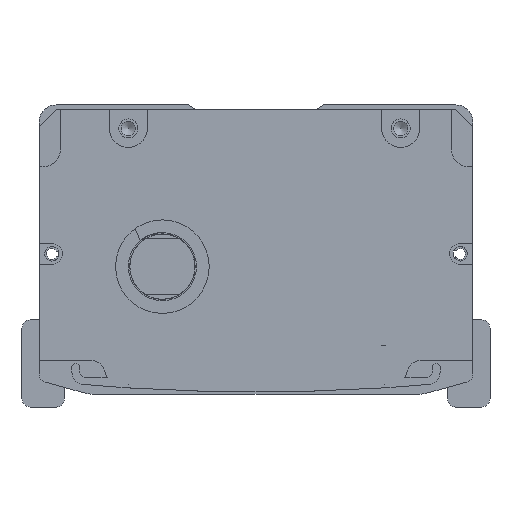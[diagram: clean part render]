
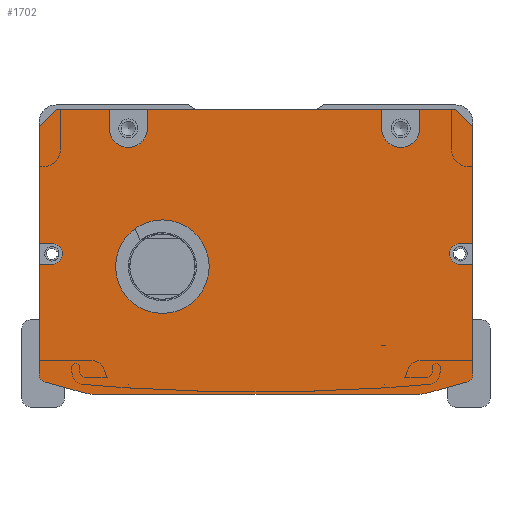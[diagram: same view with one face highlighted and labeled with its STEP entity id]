
A CAD part, front view. The second image highlights one B-rep face of the part: STEP entity #1702.
In plain terms, the highlighted planar face has unit normal (0, -1, 0).
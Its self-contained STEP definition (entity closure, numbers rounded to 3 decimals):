
#1014=FACE_BOUND('',#3192,.T.);
#1015=FACE_BOUND('',#3193,.T.);
#1702=ADVANCED_FACE('',(#1014,#1015),#2327,.F.);
#2327=PLANE('',#12171);
#3192=EDGE_LOOP('',(#5623,#5624,#5625,#5626,#5627,#5628,#5629,#5630,#5631,
#5632,#5633,#5634,#5635,#5636,#5637,#5638,#5639,#5640,#5641,#5642,#5643,
#5644,#5645,#5646,#5647,#5648,#5649,#5650));
#3193=EDGE_LOOP('',(#5651));
#4199=CIRCLE('',#12162,4.5);
#4200=CIRCLE('',#12163,4.5);
#4201=CIRCLE('',#12164,2.5);
#4202=CIRCLE('',#12165,2.);
#4203=CIRCLE('',#12166,10.);
#4204=CIRCLE('',#12167,10.);
#4205=CIRCLE('',#12168,2.);
#4206=CIRCLE('',#12169,2.5);
#4207=CIRCLE('',#12170,11.);
#5623=ORIENTED_EDGE('',*,*,#9032,.T.);
#5624=ORIENTED_EDGE('',*,*,#9452,.T.);
#5625=ORIENTED_EDGE('',*,*,#9453,.T.);
#5626=ORIENTED_EDGE('',*,*,#9454,.F.);
#5627=ORIENTED_EDGE('',*,*,#9455,.T.);
#5628=ORIENTED_EDGE('',*,*,#9456,.F.);
#5629=ORIENTED_EDGE('',*,*,#9457,.T.);
#5630=ORIENTED_EDGE('',*,*,#9458,.F.);
#5631=ORIENTED_EDGE('',*,*,#9459,.T.);
#5632=ORIENTED_EDGE('',*,*,#9460,.F.);
#5633=ORIENTED_EDGE('',*,*,#9461,.T.);
#5634=ORIENTED_EDGE('',*,*,#9462,.T.);
#5635=ORIENTED_EDGE('',*,*,#9064,.T.);
#5636=ORIENTED_EDGE('',*,*,#9463,.T.);
#5637=ORIENTED_EDGE('',*,*,#9464,.T.);
#5638=ORIENTED_EDGE('',*,*,#9465,.T.);
#5639=ORIENTED_EDGE('',*,*,#9060,.T.);
#5640=ORIENTED_EDGE('',*,*,#9466,.T.);
#5641=ORIENTED_EDGE('',*,*,#9467,.T.);
#5642=ORIENTED_EDGE('',*,*,#9468,.T.);
#5643=ORIENTED_EDGE('',*,*,#9469,.T.);
#5644=ORIENTED_EDGE('',*,*,#9470,.T.);
#5645=ORIENTED_EDGE('',*,*,#9471,.T.);
#5646=ORIENTED_EDGE('',*,*,#9472,.T.);
#5647=ORIENTED_EDGE('',*,*,#9036,.T.);
#5648=ORIENTED_EDGE('',*,*,#9473,.T.);
#5649=ORIENTED_EDGE('',*,*,#9474,.T.);
#5650=ORIENTED_EDGE('',*,*,#9475,.T.);
#5651=ORIENTED_EDGE('',*,*,#9476,.T.);
#7876=VERTEX_POINT('',#16794);
#7877=VERTEX_POINT('',#16796);
#7880=VERTEX_POINT('',#16802);
#7881=VERTEX_POINT('',#16804);
#7902=VERTEX_POINT('',#16849);
#7903=VERTEX_POINT('',#16851);
#7906=VERTEX_POINT('',#16857);
#7907=VERTEX_POINT('',#16859);
#8174=VERTEX_POINT('',#17660);
#8175=VERTEX_POINT('',#17662);
#8176=VERTEX_POINT('',#17664);
#8177=VERTEX_POINT('',#17666);
#8178=VERTEX_POINT('',#17668);
#8179=VERTEX_POINT('',#17670);
#8180=VERTEX_POINT('',#17672);
#8181=VERTEX_POINT('',#17674);
#8182=VERTEX_POINT('',#17676);
#8183=VERTEX_POINT('',#17678);
#8184=VERTEX_POINT('',#17681);
#8185=VERTEX_POINT('',#17683);
#8186=VERTEX_POINT('',#17686);
#8187=VERTEX_POINT('',#17688);
#8188=VERTEX_POINT('',#17690);
#8189=VERTEX_POINT('',#17692);
#8190=VERTEX_POINT('',#17694);
#8191=VERTEX_POINT('',#17696);
#8192=VERTEX_POINT('',#17699);
#8193=VERTEX_POINT('',#17701);
#8194=VERTEX_POINT('',#17704);
#9032=EDGE_CURVE('',#7877,#7876,#10493,.T.);
#9036=EDGE_CURVE('',#7881,#7880,#10497,.T.);
#9060=EDGE_CURVE('',#7903,#7902,#10521,.T.);
#9064=EDGE_CURVE('',#7907,#7906,#10525,.T.);
#9452=EDGE_CURVE('',#7876,#8174,#10758,.T.);
#9453=EDGE_CURVE('',#8174,#8175,#10759,.T.);
#9454=EDGE_CURVE('',#8176,#8175,#10760,.T.);
#9455=EDGE_CURVE('',#8176,#8177,#4199,.T.);
#9456=EDGE_CURVE('',#8178,#8177,#10761,.T.);
#9457=EDGE_CURVE('',#8178,#8179,#10762,.T.);
#9458=EDGE_CURVE('',#8180,#8179,#10763,.T.);
#9459=EDGE_CURVE('',#8180,#8181,#4200,.T.);
#9460=EDGE_CURVE('',#8182,#8181,#10764,.T.);
#9461=EDGE_CURVE('',#8182,#8183,#10765,.T.);
#9462=EDGE_CURVE('',#8183,#7907,#10766,.T.);
#9463=EDGE_CURVE('',#7906,#8184,#10767,.T.);
#9464=EDGE_CURVE('',#8184,#8185,#4201,.T.);
#9465=EDGE_CURVE('',#8185,#7903,#10768,.T.);
#9466=EDGE_CURVE('',#7902,#8186,#4202,.T.);
#9467=EDGE_CURVE('',#8186,#8187,#10769,.T.);
#9468=EDGE_CURVE('',#8187,#8188,#4203,.T.);
#9469=EDGE_CURVE('',#8188,#8189,#10770,.T.);
#9470=EDGE_CURVE('',#8189,#8190,#4204,.T.);
#9471=EDGE_CURVE('',#8190,#8191,#10771,.T.);
#9472=EDGE_CURVE('',#8191,#7881,#4205,.T.);
#9473=EDGE_CURVE('',#7880,#8192,#10772,.T.);
#9474=EDGE_CURVE('',#8192,#8193,#4206,.T.);
#9475=EDGE_CURVE('',#8193,#7877,#10773,.T.);
#9476=EDGE_CURVE('',#8194,#8194,#4207,.T.);
#10493=LINE('',#16795,#11146);
#10497=LINE('',#16803,#11150);
#10521=LINE('',#16850,#11174);
#10525=LINE('',#16858,#11178);
#10758=LINE('',#17659,#11411);
#10759=LINE('',#17661,#11412);
#10760=LINE('',#17663,#11413);
#10761=LINE('',#17667,#11414);
#10762=LINE('',#17669,#11415);
#10763=LINE('',#17671,#11416);
#10764=LINE('',#17675,#11417);
#10765=LINE('',#17677,#11418);
#10766=LINE('',#17679,#11419);
#10767=LINE('',#17680,#11420);
#10768=LINE('',#17684,#11421);
#10769=LINE('',#17687,#11422);
#10770=LINE('',#17691,#11423);
#10771=LINE('',#17695,#11424);
#10772=LINE('',#17698,#11425);
#10773=LINE('',#17702,#11426);
#11146=VECTOR('',#13404,1.);
#11150=VECTOR('',#13408,1.);
#11174=VECTOR('',#13434,1.);
#11178=VECTOR('',#13438,1.);
#11411=VECTOR('',#14273,1.);
#11412=VECTOR('',#14274,1.);
#11413=VECTOR('',#14275,1.);
#11414=VECTOR('',#14278,1.);
#11415=VECTOR('',#14279,1.);
#11416=VECTOR('',#14280,1.);
#11417=VECTOR('',#14283,1.);
#11418=VECTOR('',#14284,1.);
#11419=VECTOR('',#14285,1.);
#11420=VECTOR('',#14286,1.);
#11421=VECTOR('',#14289,1.);
#11422=VECTOR('',#14292,1.);
#11423=VECTOR('',#14295,1.);
#11424=VECTOR('',#14298,1.);
#11425=VECTOR('',#14301,1.);
#11426=VECTOR('',#14304,1.);
#12162=AXIS2_PLACEMENT_3D('',#17665,#14276,#14277);
#12163=AXIS2_PLACEMENT_3D('',#17673,#14281,#14282);
#12164=AXIS2_PLACEMENT_3D('',#17682,#14287,#14288);
#12165=AXIS2_PLACEMENT_3D('',#17685,#14290,#14291);
#12166=AXIS2_PLACEMENT_3D('',#17689,#14293,#14294);
#12167=AXIS2_PLACEMENT_3D('',#17693,#14296,#14297);
#12168=AXIS2_PLACEMENT_3D('',#17697,#14299,#14300);
#12169=AXIS2_PLACEMENT_3D('',#17700,#14302,#14303);
#12170=AXIS2_PLACEMENT_3D('',#17703,#14305,#14306);
#12171=AXIS2_PLACEMENT_3D('',#17705,#14307,#14308);
#13404=DIRECTION('',(0.,0.,1.));
#13408=DIRECTION('',(0.,0.,1.));
#13434=DIRECTION('',(0.,0.,-1.));
#13438=DIRECTION('',(0.,0.,-1.));
#14273=DIRECTION('',(-0.707,0.,0.707));
#14274=DIRECTION('',(-1.,0.,0.));
#14275=DIRECTION('',(0.,0.,1.));
#14276=DIRECTION('',(0.,1.,0.));
#14277=DIRECTION('',(0.,0.,1.));
#14278=DIRECTION('',(0.,0.,-1.));
#14279=DIRECTION('',(-1.,0.,0.));
#14280=DIRECTION('',(0.,0.,1.));
#14281=DIRECTION('',(0.,1.,0.));
#14282=DIRECTION('',(0.,0.,1.));
#14283=DIRECTION('',(0.,0.,-1.));
#14284=DIRECTION('',(-1.,0.,0.));
#14285=DIRECTION('',(-0.707,0.,-0.707));
#14286=DIRECTION('',(1.,0.,0.));
#14287=DIRECTION('',(0.,1.,0.));
#14288=DIRECTION('',(0.,0.,1.));
#14289=DIRECTION('',(-1.,0.,0.));
#14290=DIRECTION('',(0.,-1.,0.));
#14291=DIRECTION('',(0.,0.,1.));
#14292=DIRECTION('',(0.963,0.,-0.269));
#14293=DIRECTION('',(0.,-1.,0.));
#14294=DIRECTION('',(0.,0.,1.));
#14295=DIRECTION('',(1.,0.,0.));
#14296=DIRECTION('',(0.,-1.,0.));
#14297=DIRECTION('',(0.,0.,-1.));
#14298=DIRECTION('',(0.963,0.,0.269));
#14299=DIRECTION('',(0.,-1.,0.));
#14300=DIRECTION('',(0.,0.,-1.));
#14301=DIRECTION('',(-1.,0.,0.));
#14302=DIRECTION('',(0.,1.,0.));
#14303=DIRECTION('',(0.,0.,1.));
#14304=DIRECTION('',(1.,0.,0.));
#14305=DIRECTION('',(0.,1.,0.));
#14306=DIRECTION('',(0.,0.,1.));
#14307=DIRECTION('',(0.,1.,0.));
#14308=DIRECTION('',(1.,0.,0.));
#16794=CARTESIAN_POINT('',(47.808,-857.5,-5.));
#16795=CARTESIAN_POINT('',(47.808,-857.5,-1.));
#16796=CARTESIAN_POINT('',(47.808,-857.5,-32.5));
#16802=CARTESIAN_POINT('',(47.808,-857.5,-37.5));
#16803=CARTESIAN_POINT('',(47.808,-857.5,-1.));
#16804=CARTESIAN_POINT('',(47.808,-857.5,-63.212));
#16849=CARTESIAN_POINT('',(-54.192,-857.5,-63.212));
#16850=CARTESIAN_POINT('',(-54.192,-857.5,-62.));
#16851=CARTESIAN_POINT('',(-54.192,-857.5,-37.5));
#16857=CARTESIAN_POINT('',(-54.192,-857.5,-32.5));
#16858=CARTESIAN_POINT('',(-54.192,-857.5,-62.));
#16859=CARTESIAN_POINT('',(-54.192,-857.5,-5.));
#17659=CARTESIAN_POINT('',(43.808,-857.5,-1.));
#17660=CARTESIAN_POINT('',(43.808,-857.5,-1.));
#17661=CARTESIAN_POINT('',(-3.192,-857.5,-1.));
#17662=CARTESIAN_POINT('',(35.308,-857.5,-1.));
#17663=CARTESIAN_POINT('',(35.308,-857.5,-1.));
#17664=CARTESIAN_POINT('',(35.308,-857.5,-5.5));
#17665=CARTESIAN_POINT('',(30.808,-857.5,-5.5));
#17666=CARTESIAN_POINT('',(26.308,-857.5,-5.5));
#17667=CARTESIAN_POINT('',(26.308,-857.5,-1.));
#17668=CARTESIAN_POINT('',(26.308,-857.5,-1.));
#17669=CARTESIAN_POINT('',(-54.192,-857.5,-1.));
#17670=CARTESIAN_POINT('',(-28.692,-857.5,-1.));
#17671=CARTESIAN_POINT('',(-28.692,-857.5,-3.5));
#17672=CARTESIAN_POINT('',(-28.692,-857.5,-5.5));
#17673=CARTESIAN_POINT('',(-33.192,-857.5,-5.5));
#17674=CARTESIAN_POINT('',(-37.692,-857.5,-5.5));
#17675=CARTESIAN_POINT('',(-37.692,-857.5,-1.));
#17676=CARTESIAN_POINT('',(-37.692,-857.5,-1.));
#17677=CARTESIAN_POINT('',(-54.192,-857.5,-1.));
#17678=CARTESIAN_POINT('',(-50.192,-857.5,-1.));
#17679=CARTESIAN_POINT('',(-54.192,-857.5,-5.));
#17680=CARTESIAN_POINT('',(-3.192,-857.5,-32.5));
#17681=CARTESIAN_POINT('',(-51.192,-857.5,-32.5));
#17682=CARTESIAN_POINT('',(-51.192,-857.5,-35.));
#17683=CARTESIAN_POINT('',(-51.192,-857.5,-37.5));
#17684=CARTESIAN_POINT('',(-3.192,-857.5,-37.5));
#17685=CARTESIAN_POINT('',(-52.192,-857.5,-63.212));
#17686=CARTESIAN_POINT('',(-52.731,-857.5,-65.138));
#17687=CARTESIAN_POINT('',(-55.807,-857.5,-64.279));
#17688=CARTESIAN_POINT('',(-43.809,-857.5,-67.631));
#17689=CARTESIAN_POINT('',(-41.118,-857.5,-58.));
#17690=CARTESIAN_POINT('',(-41.118,-857.5,-68.));
#17691=CARTESIAN_POINT('',(-54.692,-857.5,-68.));
#17692=CARTESIAN_POINT('',(34.733,-857.5,-68.));
#17693=CARTESIAN_POINT('',(34.733,-857.5,-58.));
#17694=CARTESIAN_POINT('',(37.424,-857.5,-67.631));
#17695=CARTESIAN_POINT('',(49.422,-857.5,-64.279));
#17696=CARTESIAN_POINT('',(46.346,-857.5,-65.138));
#17697=CARTESIAN_POINT('',(45.808,-857.5,-63.212));
#17698=CARTESIAN_POINT('',(-3.192,-857.5,-37.5));
#17699=CARTESIAN_POINT('',(44.808,-857.5,-37.5));
#17700=CARTESIAN_POINT('',(44.808,-857.5,-35.));
#17701=CARTESIAN_POINT('',(44.808,-857.5,-32.5));
#17702=CARTESIAN_POINT('',(-3.192,-857.5,-32.5));
#17703=CARTESIAN_POINT('',(-25.192,-857.5,-38.));
#17704=CARTESIAN_POINT('',(-25.192,-857.5,-27.));
#17705=CARTESIAN_POINT('',(-3.192,-857.5,-1.));
